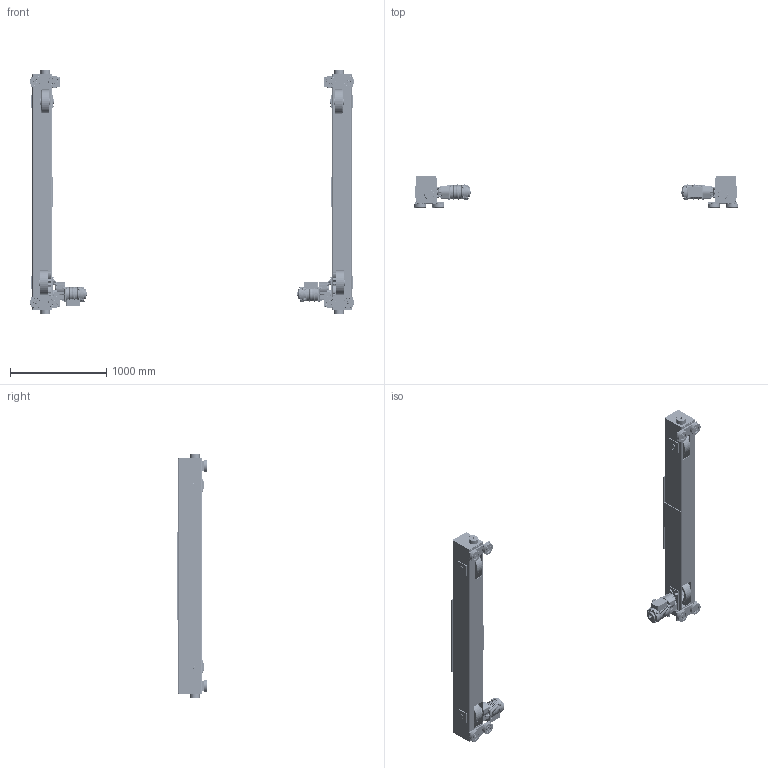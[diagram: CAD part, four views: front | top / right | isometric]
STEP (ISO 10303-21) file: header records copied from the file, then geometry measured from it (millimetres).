
FILE_DESCRIPTION (( 'STEP AP214' ), '1' );
FILE_NAME ('TML-3-1060.STEP', '2026-08-12T20:08:31', ( '' ), ( '' ), 'SwSTEP 2.0', 'SolidWorks 2026', '' );
FILE_SCHEMA (( 'AUTOMOTIVE_DESIGN' ));
Length unit declared in the file: inch
Products named in the file (70): MS555010_MS555010; 9093327_9093327; 6244518; 6244514X_6244514D; N6QO375E9108; N6WO975E91311; N6QO375120; 6244510; G1JE075S9610; 9091272_9091272; 9093329_9093329; 6244512; 9093350_9093350; 6244513; 6244505; G1JE075S9310; N6QO375207; 6244504; G1JE075S9603; TML-3-1060; G1JM075L_ROTATED180 DEGREES; 9000608; 62440_6244002; 62443_1060 - 40# & 45# RAIL; 9091295_9091295; 6244516; G1JM075L_NORMAL; 6244506; 9012514_9012514; G1JE040S9707; 9012712_9012712; G1JE040S9503; 6244521; 9012709_Rectangular section spring washer BS 4464 - 16 (Type B); 6244515X_6244515D; N6QO5751102; G1JE040S9701; 6244507; 62442_1060 - 40# & 45# RAIL; N6QO575E91013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
Assembly tree (280 placements, depth 4):
  TML-3-1060
    62442_1060 - 40# & 45# RAIL
      62440_6244002
        T1000-800-004_95.4375
        6244512
        6244521
        6244510
        6244510
        6244510
      6244516  x2
      6244507
      6244515X_6244515D  x2
        6244514X_6244514D
        6244522
      MS116050
      6244504
      6244505
      6244506
    62443_1060 - 40# & 45# RAIL
      62441_6244102
        T1000-800-004_95.4375
        6244512
        6244521
        6244510
        6244510
        6244510
      6244516  x2
      6244507
      6244515X_6244515D  x2
        6244514X_6244514D
        6244522
      6244504
      6244505
      6244506
      MS116050
    N6QO3751108  x8
      N6QO375E9108
      9000608
      9047280_9047280
    N6QO375120  x8
    9012711_9012711  x28
    9093327_9093327  x24
    N6QO375207  x4
    9012514_9012514  x4
    9093329_9093329  x4
    6244518  x4
    6244513  x4
    N6QO5751101  x2
      N6QO575E91013
      N6QO575E91341
      N6WO975E91311
      9000710
      9091295_9091295
      9012712_9012712
    N6QO5751102  x2
      N6QO575E9102
      9000710
    G1JM075L_NORMAL
      G1JE075S9303
      G1JE075S9310
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Bounding box: 3364.64 x 321.38 x 2540.16 mm (x, y, z)
Volume: 65423366.4 mm3; surface area: 14601791.7 mm2
Topology: 304 solids, 368 shells, 17058 faces, 43246 edges, 27584 vertices
Faces by surface type: plane 9104, cylinder 3804, bspline 1658, cone 1310, torus 940, sphere 242
Entity records: 170978 total; most frequent: CARTESIAN_POINT 67747, ORIENTED_EDGE 21326, DIRECTION 20136, EDGE_CURVE 10667, AXIS2_PLACEMENT_3D 7650, VERTEX_POINT 6776, LINE 4836, VECTOR 4836
